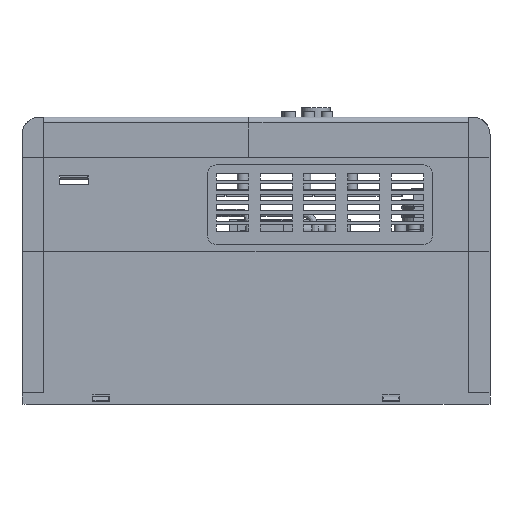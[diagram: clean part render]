
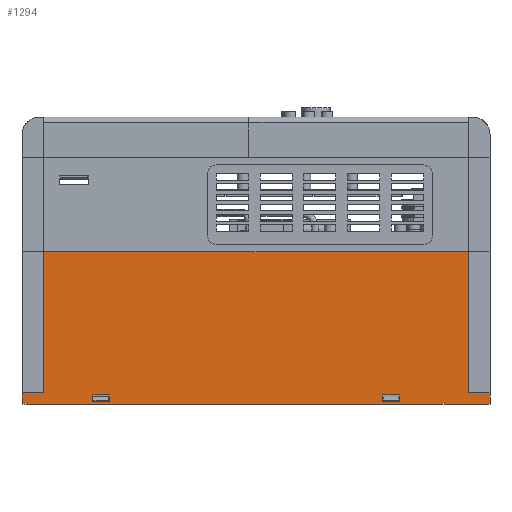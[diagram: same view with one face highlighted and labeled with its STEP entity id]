
A CAD part, left-side view. The second image highlights one B-rep face of the part: STEP entity #1294.
In plain terms, the highlighted planar face has unit normal (-1, 0, 0).
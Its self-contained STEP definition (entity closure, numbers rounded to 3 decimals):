
#1294=ADVANCED_FACE('',(#31109,#31111,#31113),#31115,.T.);
#31109=FACE_BOUND('',#31110,.T.);
#31110=EDGE_LOOP('',(#90017,#90018,#90019,#90020,#90021,#90022,#90023,#90024));
#31111=FACE_BOUND('',#31112,.T.);
#31112=EDGE_LOOP('',(#90025,#90026,#90027,#90028));
#31113=FACE_BOUND('',#31114,.T.);
#31114=EDGE_LOOP('',(#90029,#90030,#90031,#90032));
#31115=PLANE('',#31116);
#31116=AXIS2_PLACEMENT_3D('',#31117,#31118,#31119);
#31117=CARTESIAN_POINT('',(-109.8,160.3,0.));
#31118=DIRECTION('',(-1.,0.,0.));
#31119=DIRECTION('',(0.,-1.,0.));
#90017=ORIENTED_EDGE('',*,*,#134725,.T.);
#90018=ORIENTED_EDGE('',*,*,#134747,.T.);
#90019=ORIENTED_EDGE('',*,*,#134748,.T.);
#90020=ORIENTED_EDGE('',*,*,#134749,.F.);
#90021=ORIENTED_EDGE('',*,*,#134750,.T.);
#90022=ORIENTED_EDGE('',*,*,#134683,.T.);
#90023=ORIENTED_EDGE('',*,*,#134745,.T.);
#90024=ORIENTED_EDGE('',*,*,#134751,.T.);
#90025=ORIENTED_EDGE('',*,*,#134752,.T.);
#90026=ORIENTED_EDGE('',*,*,#134753,.T.);
#90027=ORIENTED_EDGE('',*,*,#134754,.T.);
#90028=ORIENTED_EDGE('',*,*,#134755,.T.);
#90029=ORIENTED_EDGE('',*,*,#134756,.T.);
#90030=ORIENTED_EDGE('',*,*,#134757,.T.);
#90031=ORIENTED_EDGE('',*,*,#134758,.T.);
#90032=ORIENTED_EDGE('',*,*,#134759,.T.);
#134683=EDGE_CURVE('',#155033,#155031,#155034,.T.);
#134725=EDGE_CURVE('',#155114,#155112,#155115,.T.);
#134745=EDGE_CURVE('',#155031,#155149,#155151,.T.);
#134747=EDGE_CURVE('',#155112,#155154,#155155,.F.);
#134748=EDGE_CURVE('',#155154,#155156,#155157,.T.);
#134749=EDGE_CURVE('',#155158,#155156,#155159,.T.);
#134750=EDGE_CURVE('',#155158,#155033,#155160,.T.);
#134751=EDGE_CURVE('',#155149,#155114,#155161,.F.);
#134752=EDGE_CURVE('',#155162,#155163,#155164,.F.);
#134753=EDGE_CURVE('',#155163,#155165,#155166,.F.);
#134754=EDGE_CURVE('',#155165,#155167,#155168,.F.);
#134755=EDGE_CURVE('',#155167,#155162,#155169,.F.);
#134756=EDGE_CURVE('',#155170,#155171,#155172,.F.);
#134757=EDGE_CURVE('',#155171,#155173,#155174,.F.);
#134758=EDGE_CURVE('',#155173,#155175,#155176,.F.);
#134759=EDGE_CURVE('',#155175,#155170,#155177,.F.);
#155031=VERTEX_POINT('',#188925);
#155033=VERTEX_POINT('',#188929);
#155034=LINE('',#188930,#188931);
#155112=VERTEX_POINT('',#189096);
#155114=VERTEX_POINT('',#189100);
#155115=LINE('',#189101,#189102);
#155149=VERTEX_POINT('',#189173);
#155151=LINE('',#189177,#189178);
#155154=VERTEX_POINT('',#189188);
#155155=LINE('',#189189,#189190);
#155156=VERTEX_POINT('',#189192);
#155157=LINE('',#189193,#189194);
#155158=VERTEX_POINT('',#189196);
#155159=LINE('',#189197,#189198);
#155160=LINE('',#189200,#189201);
#155161=LINE('',#189203,#189204);
#155162=VERTEX_POINT('',#189206);
#155163=VERTEX_POINT('',#189207);
#155164=LINE('',#189208,#189209);
#155165=VERTEX_POINT('',#189211);
#155166=LINE('',#189212,#189213);
#155167=VERTEX_POINT('',#189215);
#155168=LINE('',#189216,#189217);
#155169=LINE('',#189219,#189220);
#155170=VERTEX_POINT('',#189222);
#155171=VERTEX_POINT('',#189223);
#155172=LINE('',#189224,#189225);
#155173=VERTEX_POINT('',#189227);
#155174=LINE('',#189228,#189229);
#155175=VERTEX_POINT('',#189231);
#155176=LINE('',#189232,#189233);
#155177=LINE('',#189235,#189236);
#188925=CARTESIAN_POINT('',(-109.8,-160.3,8.));
#188929=CARTESIAN_POINT('',(-109.8,-160.3,0.));
#188930=CARTESIAN_POINT('',(-109.8,-160.3,0.));
#188931=VECTOR('',#188932,1.);
#188932=DIRECTION('',(0.,0.,1.));
#189096=CARTESIAN_POINT('',(-109.8,145.3,104.6));
#189100=CARTESIAN_POINT('',(-109.8,-145.3,104.6));
#189101=CARTESIAN_POINT('',(-109.8,-145.3,104.6));
#189102=VECTOR('',#189103,1.);
#189103=DIRECTION('',(0.,1.,0.));
#189173=CARTESIAN_POINT('',(-109.8,-145.3,8.));
#189177=CARTESIAN_POINT('',(-109.8,-160.3,8.));
#189178=VECTOR('',#189179,1.);
#189179=DIRECTION('',(0.,1.,0.));
#189188=CARTESIAN_POINT('',(-109.8,145.3,8.));
#189189=CARTESIAN_POINT('',(-109.8,145.3,8.));
#189190=VECTOR('',#189191,1.);
#189191=DIRECTION('',(0.,0.,1.));
#189192=CARTESIAN_POINT('',(-109.8,160.3,8.));
#189193=CARTESIAN_POINT('',(-109.8,145.3,8.));
#189194=VECTOR('',#189195,1.);
#189195=DIRECTION('',(0.,1.,0.));
#189196=CARTESIAN_POINT('',(-109.8,160.3,0.));
#189197=CARTESIAN_POINT('',(-109.8,160.3,0.));
#189198=VECTOR('',#189199,1.);
#189199=DIRECTION('',(0.,0.,1.));
#189200=CARTESIAN_POINT('',(-109.8,160.3,0.));
#189201=VECTOR('',#189202,1.);
#189202=DIRECTION('',(0.,-1.,0.));
#189203=CARTESIAN_POINT('',(-109.8,-145.3,104.6));
#189204=VECTOR('',#189205,1.);
#189205=DIRECTION('',(0.,0.,-1.));
#189206=CARTESIAN_POINT('',(-109.8,100.2,6.5));
#189207=CARTESIAN_POINT('',(-109.8,100.2,2.));
#189208=CARTESIAN_POINT('',(-109.8,100.2,2.));
#189209=VECTOR('',#189210,1.);
#189210=DIRECTION('',(0.,0.,1.));
#189211=CARTESIAN_POINT('',(-109.8,111.7,2.));
#189212=CARTESIAN_POINT('',(-109.8,111.7,2.));
#189213=VECTOR('',#189214,1.);
#189214=DIRECTION('',(0.,-1.,0.));
#189215=CARTESIAN_POINT('',(-109.8,111.7,6.5));
#189216=CARTESIAN_POINT('',(-109.8,111.7,6.5));
#189217=VECTOR('',#189218,1.);
#189218=DIRECTION('',(0.,0.,-1.));
#189219=CARTESIAN_POINT('',(-109.8,100.2,6.5));
#189220=VECTOR('',#189221,1.);
#189221=DIRECTION('',(0.,1.,0.));
#189222=CARTESIAN_POINT('',(-109.8,-86.8,6.5));
#189223=CARTESIAN_POINT('',(-109.8,-98.3,6.5));
#189224=CARTESIAN_POINT('',(-109.8,-98.3,6.5));
#189225=VECTOR('',#189226,1.);
#189226=DIRECTION('',(0.,1.,0.));
#189227=CARTESIAN_POINT('',(-109.8,-98.3,2.));
#189228=CARTESIAN_POINT('',(-109.8,-98.3,2.));
#189229=VECTOR('',#189230,1.);
#189230=DIRECTION('',(0.,0.,1.));
#189231=CARTESIAN_POINT('',(-109.8,-86.8,2.));
#189232=CARTESIAN_POINT('',(-109.8,-86.8,2.));
#189233=VECTOR('',#189234,1.);
#189234=DIRECTION('',(0.,-1.,0.));
#189235=CARTESIAN_POINT('',(-109.8,-86.8,6.5));
#189236=VECTOR('',#189237,1.);
#189237=DIRECTION('',(0.,0.,-1.));
